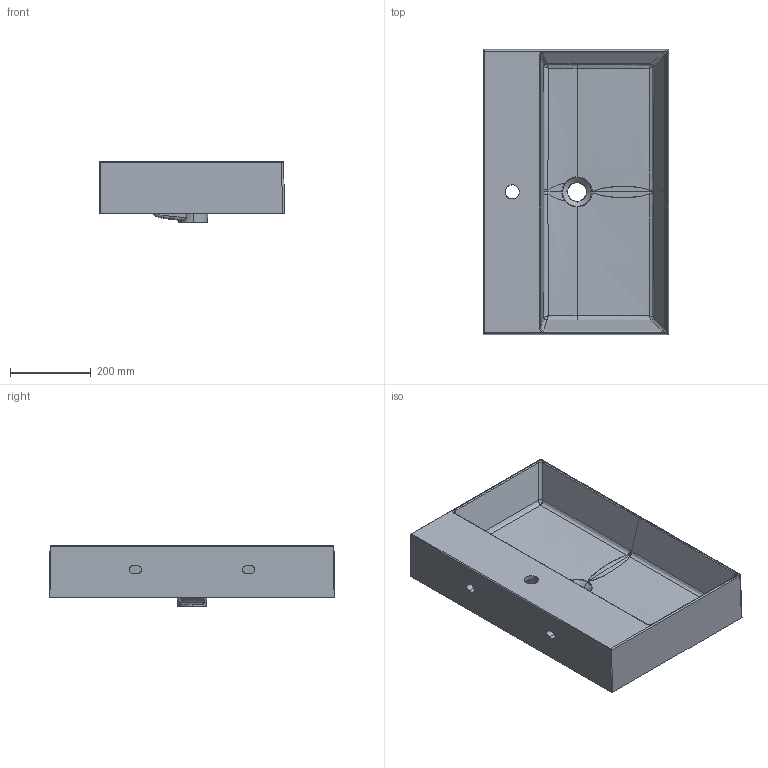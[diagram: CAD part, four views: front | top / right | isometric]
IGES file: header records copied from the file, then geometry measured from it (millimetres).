
Start section: START RECORD GO HERE.
Global section: file name: Art 8582 LAV Pro 71 x 46.igs; native system: DASSAULT SYSTEMES CATIA V5 R19 - www.3ds.com; preprocessor: CATIA Version 5 Release 19 SP 5 ; author: Luca; organization: DESKTOP-V7SON24; date: 20191004.070753; units: millimetre
Bounding box: 460.18 x 710.38 x 151.5 mm (x, y, z)
Surface area: 1339965.7 mm2 (no closed solid volume)
Topology: 0 solids, 0 shells, 408 faces, 1996 edges, 1980 vertices
Faces by surface type: bspline 354, plane 52, revolution 2
